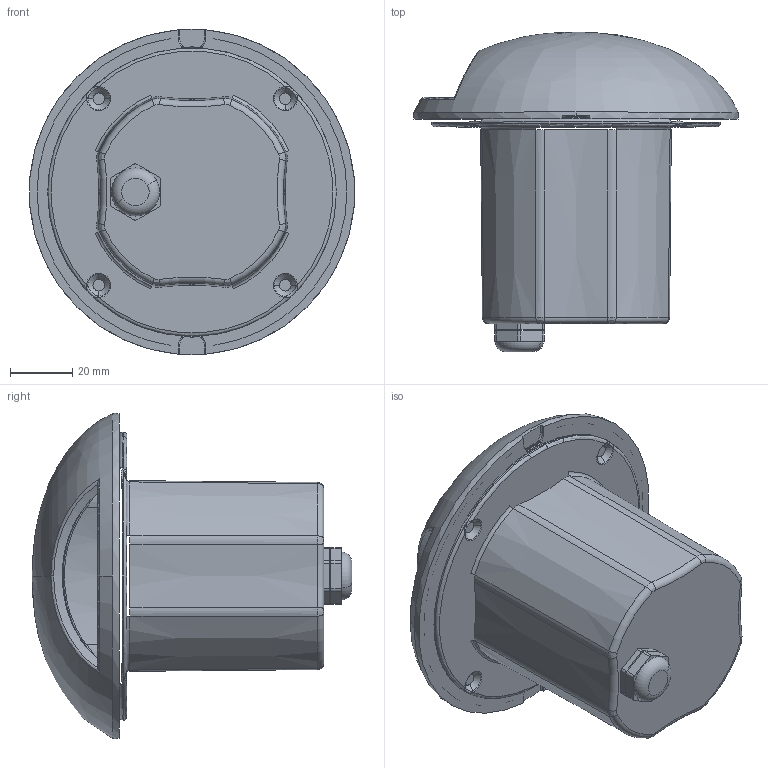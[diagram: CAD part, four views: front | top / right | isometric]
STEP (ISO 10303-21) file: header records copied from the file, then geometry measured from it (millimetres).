
FILE_DESCRIPTION((''),'2;1');
FILE_NAME('90X1_SW0001','2025-07-30T15:47:11',('Piccioli'),(''),'CREO PARAMETRIC BY PTC INC, 2025010','CREO PARAMETRIC BY PTC INC, 2025010','');
FILE_SCHEMA(('CONFIG_CONTROL_DESIGN'));
Length unit declared in the file: millimetre
Products named in the file (1): 90X1_SW0001
Bounding box: 104.77 x 103 x 104.9 mm (x, y, z)
Surface area: 56031.5 mm2 (no closed solid volume)
Topology: 0 solids, 7 shells, 131 faces, 433 edges, 295 vertices
Faces by surface type: cone 32, torus 27, bspline 25, plane 24, cylinder 18, revolution 5
Entity records: 8519 total; most frequent: CARTESIAN_POINT 4987, DIRECTION 727, ORIENTED_EDGE 691, EDGE_CURVE 428, AXIS2_PLACEMENT_3D 317, VERTEX_POINT 295, CIRCLE 216, EDGE_LOOP 131
